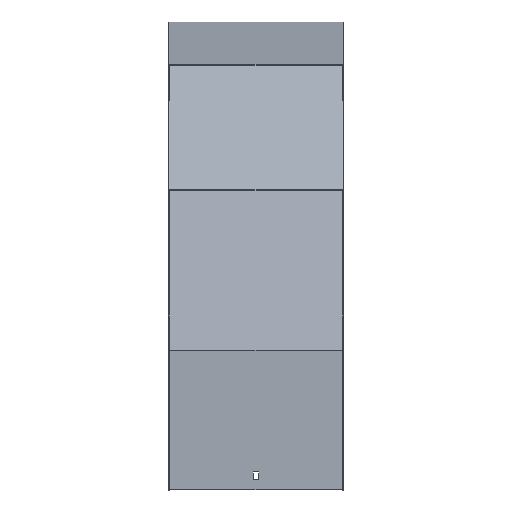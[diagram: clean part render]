
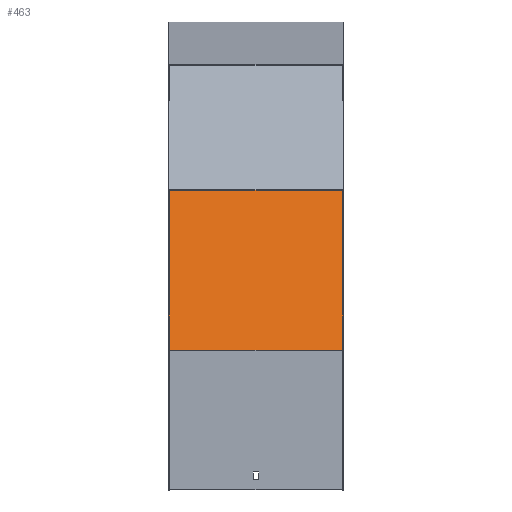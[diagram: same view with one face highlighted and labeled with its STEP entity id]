
A CAD part, top view. The second image highlights one B-rep face of the part: STEP entity #463.
In plain terms, the highlighted planar face has unit normal (0, 0.259, 0.966).
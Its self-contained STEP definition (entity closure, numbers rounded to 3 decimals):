
#40 = VERTEX_POINT ( 'NONE', #573 ) ;
#42 = DIRECTION ( 'NONE',  ( 0., -0.259, -0.966 ) ) ;
#46 = ORIENTED_EDGE ( 'NONE', *, *, #412, .F. ) ;
#51 = CARTESIAN_POINT ( 'NONE',  ( 101.5, -361.831, 544.464 ) ) ;
#87 = EDGE_LOOP ( 'NONE', ( #402, #46, #452, #546 ) ) ;
#106 = LINE ( 'NONE', #597, #501 ) ;
#166 = VECTOR ( 'NONE', #945, 1000. ) ;
#187 = VERTEX_POINT ( 'NONE', #251 ) ;
#192 = AXIS2_PLACEMENT_3D ( 'NONE', #662, #42, #547 ) ;
#251 = CARTESIAN_POINT ( 'NONE',  ( 101.5, -175.415, 494.514 ) ) ;
#252 = EDGE_CURVE ( 'NONE', #187, #439, #106, .T. ) ;
#264 = VECTOR ( 'NONE', #847, 1000. ) ;
#311 = FACE_OUTER_BOUND ( 'NONE', #87, .T. ) ;
#338 = CARTESIAN_POINT ( 'NONE',  ( -101.5, -180.591, 495.901 ) ) ;
#402 = ORIENTED_EDGE ( 'NONE', *, *, #488, .T. ) ;
#412 = EDGE_CURVE ( 'NONE', #888, #40, #474, .T. ) ;
#439 = VERTEX_POINT ( 'NONE', #991 ) ;
#452 = ORIENTED_EDGE ( 'NONE', *, *, #916, .F. ) ;
#463 = ADVANCED_FACE ( 'NONE', ( #311 ), #1079, .F. ) ;
#474 = LINE ( 'NONE', #51, #562 ) ;
#488 = EDGE_CURVE ( 'NONE', #439, #40, #939, .T. ) ;
#501 = VECTOR ( 'NONE', #862, 1000. ) ;
#546 = ORIENTED_EDGE ( 'NONE', *, *, #252, .T. ) ;
#547 = DIRECTION ( 'NONE',  ( 0., 0.966, -0.259 ) ) ;
#562 = VECTOR ( 'NONE', #567, 1000. ) ;
#567 = DIRECTION ( 'NONE',  ( -1., 0., 0. ) ) ;
#573 = CARTESIAN_POINT ( 'NONE',  ( -101.5, -361.831, 544.464 ) ) ;
#583 = CARTESIAN_POINT ( 'NONE',  ( 101.5, -180.591, 495.901 ) ) ;
#597 = CARTESIAN_POINT ( 'NONE',  ( 101.5, -175.415, 494.514 ) ) ;
#662 = CARTESIAN_POINT ( 'NONE',  ( 101.5, -180.591, 495.901 ) ) ;
#788 = CARTESIAN_POINT ( 'NONE',  ( 101.5, -361.831, 544.464 ) ) ;
#847 = DIRECTION ( 'NONE',  ( 0., -0.966, 0.259 ) ) ;
#862 = DIRECTION ( 'NONE',  ( -1., 0., 0. ) ) ;
#888 = VERTEX_POINT ( 'NONE', #788 ) ;
#916 = EDGE_CURVE ( 'NONE', #187, #888, #1024, .T. ) ;
#939 = LINE ( 'NONE', #338, #166 ) ;
#945 = DIRECTION ( 'NONE',  ( 0., -0.966, 0.259 ) ) ;
#991 = CARTESIAN_POINT ( 'NONE',  ( -101.5, -175.415, 494.514 ) ) ;
#1024 = LINE ( 'NONE', #583, #264 ) ;
#1079 = PLANE ( 'NONE',  #192 ) ;
